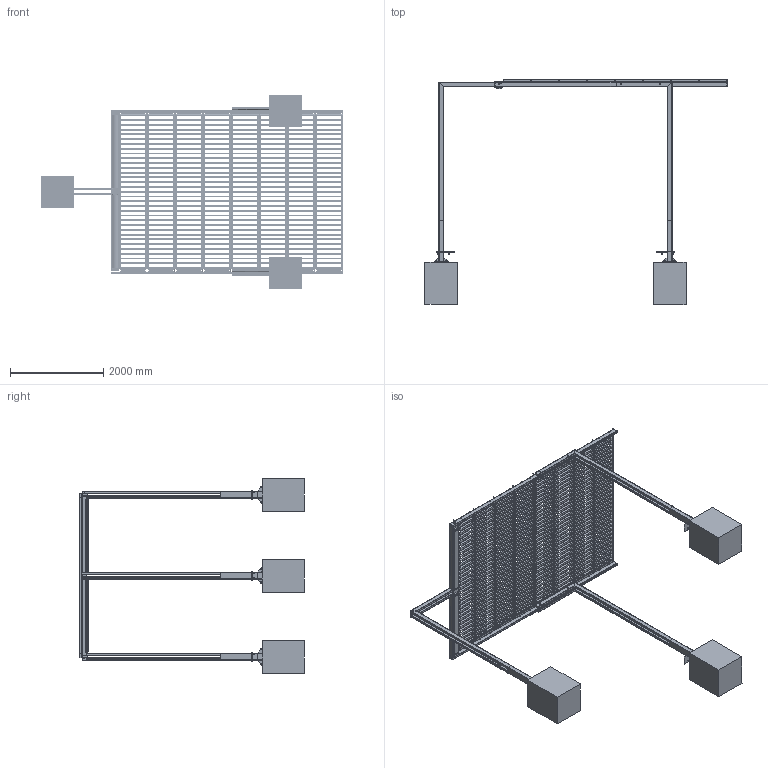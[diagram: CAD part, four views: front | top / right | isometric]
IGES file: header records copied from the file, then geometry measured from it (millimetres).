
Start section: SolidWorks IGES file using analytic representation for surfaces
Global section: file name: C:\SANTACOLE_PDM\Proyectos Catálogo\PROD-P07-016 -- VIA LACTEA\6_Técnico comercial\3D WEB\Pergola Via Láctea con luz.IGS; native system: SolidWorks 2013; preprocessor: SolidWorks 2013; author: jordi.munoz; date: 150504.165626; units: millimetre
Bounding box: 6474.5 x 4816.27 x 4170 mm (x, y, z)
Volume: 1695354193.9 mm3; surface area: 82407253.9 mm2
Topology: 378 solids, 378 shells, 8900 faces, 22914 edges, 14900 vertices
Faces by surface type: plane 4521, revolution 4031, bspline 348
